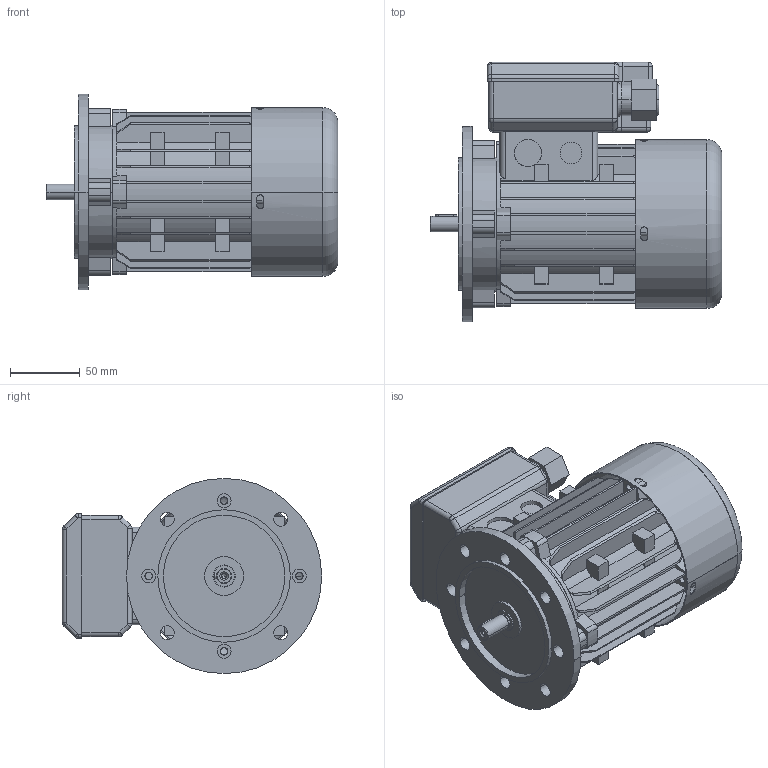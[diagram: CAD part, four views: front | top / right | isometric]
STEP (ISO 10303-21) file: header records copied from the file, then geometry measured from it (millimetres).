
FILE_DESCRIPTION((''),'2;1');
FILE_NAME('M63_ASM','2014-12-17T',('StemBG2'),(''),'PRO/ENGINEER BY PARAMETRIC TECHNOLOGY CORPORATION, 2008020','PRO/ENGINEER BY PARAMETRIC TECHNOLOGY CORPORATION, 2008020','');
FILE_SCHEMA(('AUTOMOTIVE_DESIGN_CC2 { 1 2 10303 214 -1 1 5 2 }'));
Length unit declared in the file: millimetre
Products named in the file (6): HOU63; SH63; FCV63; B5_63; TBOX63; M63_ASM
Assembly tree (5 placements, depth 2):
  M63_ASM
    HOU63
    SH63
    FCV63
    B5_63
    TBOX63
Bounding box: 209 x 186 x 140 mm (x, y, z)
Volume: 1590655.4 mm3; surface area: 272483.1 mm2
Topology: 5 solids, 6 shells, 598 faces, 1569 edges, 1006 vertices
Faces by surface type: plane 282, cylinder 250, cone 38, bspline 16, torus 10, sphere 2
Entity records: 21007 total; most frequent: CARTESIAN_POINT 3851, DIRECTION 3342, ORIENTED_EDGE 3130, EDGE_CURVE 1567, AXIS2_PLACEMENT_3D 1262, VERTEX_POINT 1006, VECTOR 818, LINE 818
